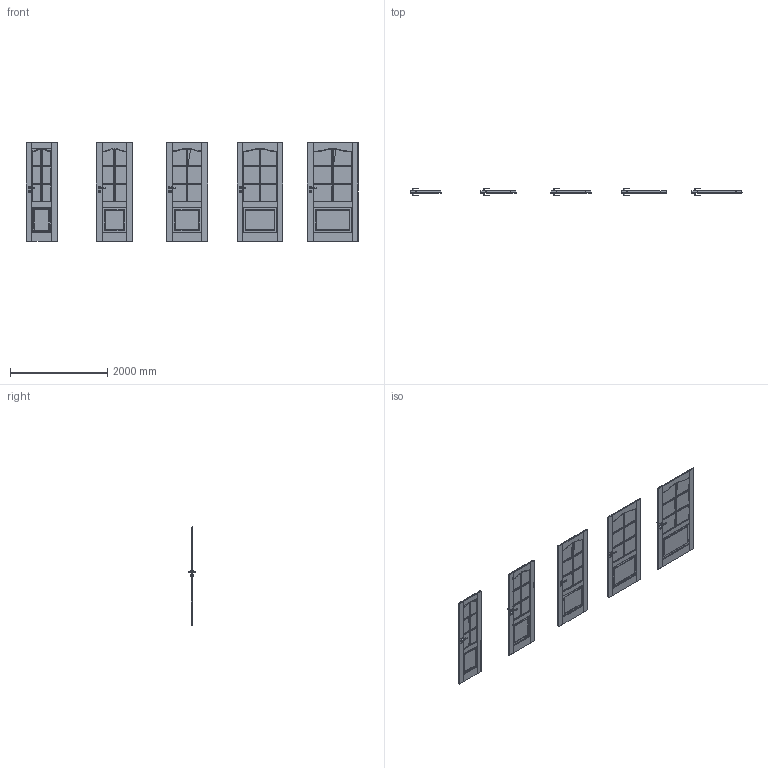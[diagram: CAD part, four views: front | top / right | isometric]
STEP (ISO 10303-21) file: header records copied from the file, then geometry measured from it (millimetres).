
FILE_DESCRIPTION(/* description */ (''),/* implementation_level */ '2;1');
FILE_NAME(/* name */ '050261_A_2-Skrzydło MADRYT model szpros_ polska norma _PN__ przylgowe..stp',/* time_stamp */ '2025-02-04T14:43:41+01:00',/* author */ (''),/* organization */ (''),/* preprocessor_version */ 'ST-DEVELOPER v16',/* originating_system */ 'SIEMENS PLM Software NX 11.0',/* authorisation */ '');
FILE_SCHEMA (('AUTOMOTIVE_DESIGN { 1 0 10303 214 3 1 1 1 }'));
Products named in the file (1): bkni324856785kww
Bounding box: 6844 x 153.13 x 2030 mm (x, y, z)
Volume: 191160296 mm3; surface area: 22401769.1 mm2
Topology: 40 solids, 40 shells, 4839 faces, 12537 edges, 7341 vertices
Faces by surface type: plane 2414, cylinder 1685, bspline 600, sphere 140
Full cylindrical faces by diameter (mm): 12 x10
Entity records: 156919 total; most frequent: CARTESIAN_POINT 47439, ORIENTED_EDGE 24762, DIRECTION 19840, EDGE_CURVE 12381, LINE 8082, VECTOR 8082, VERTEX_POINT 7341, AXIS2_PLACEMENT_3D 5879
